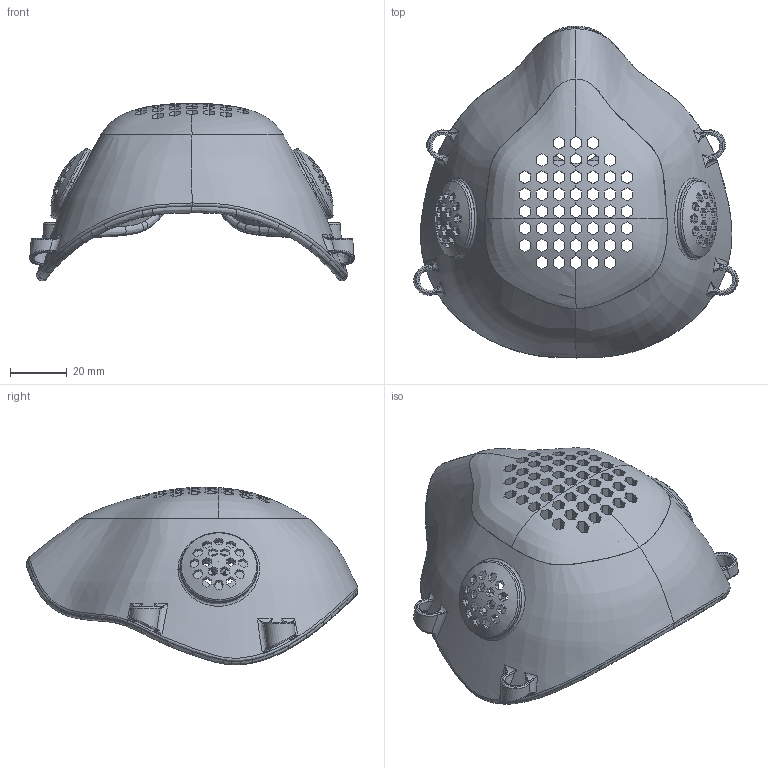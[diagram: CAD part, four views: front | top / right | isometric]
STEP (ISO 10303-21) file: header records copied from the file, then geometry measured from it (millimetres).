
FILE_DESCRIPTION(/* description */ (''),/* implementation_level */ '2;1');
FILE_NAME(/* name */ 'C:/Users/Max/Downloads/MaxMask V3 F3D (Single).step',/* time_stamp */ '2020-08-10T07:25:27-07:00',/* author */ (''),/* organization */ (''),/* preprocessor_version */ 'ST-DEVELOPER v18.1',/* originating_system */ 'Autodesk Translation Framework v9.3.0.1241',/* authorisation */ '');
FILE_SCHEMA (('AUTOMOTIVE_DESIGN { 1 0 10303 214 3 1 1 }'));
Products named in the file (4): MaxMask V3 F3D (Single); Filter Clip; Filter Housing; Mask Body
Assembly tree (3 placements, depth 2):
  MaxMask V3 F3D (Single)
    Filter Clip
    Filter Housing
    Mask Body
Bounding box: 114.02 x 116.64 x 62.45 mm (x, y, z)
Volume: 56014.7 mm3; surface area: 53826.2 mm2
Topology: 7 solids, 7 shells, 1504 faces, 4692 edges, 3102 vertices
Faces by surface type: plane 1056, bspline 285, cylinder 143, torus 8, cone 8, sphere 4
Full cylindrical faces by diameter (mm): 2.007 x1, 2.8 x4, 3.3 x2, 5 x2, 22 x4, 27.2 x2
Entity records: 76436 total; most frequent: CARTESIAN_POINT 36466, ORIENTED_EDGE 9340, DIRECTION 6851, EDGE_CURVE 4670, VERTEX_POINT 3102, LINE 2689, VECTOR 2689, AXIS2_PLACEMENT_3D 2081
